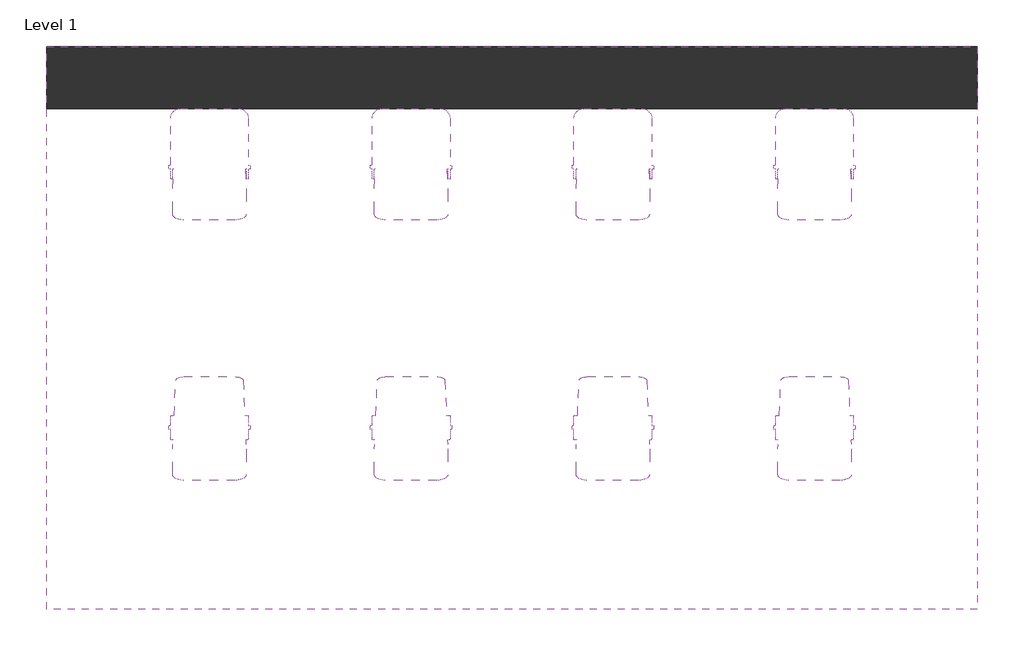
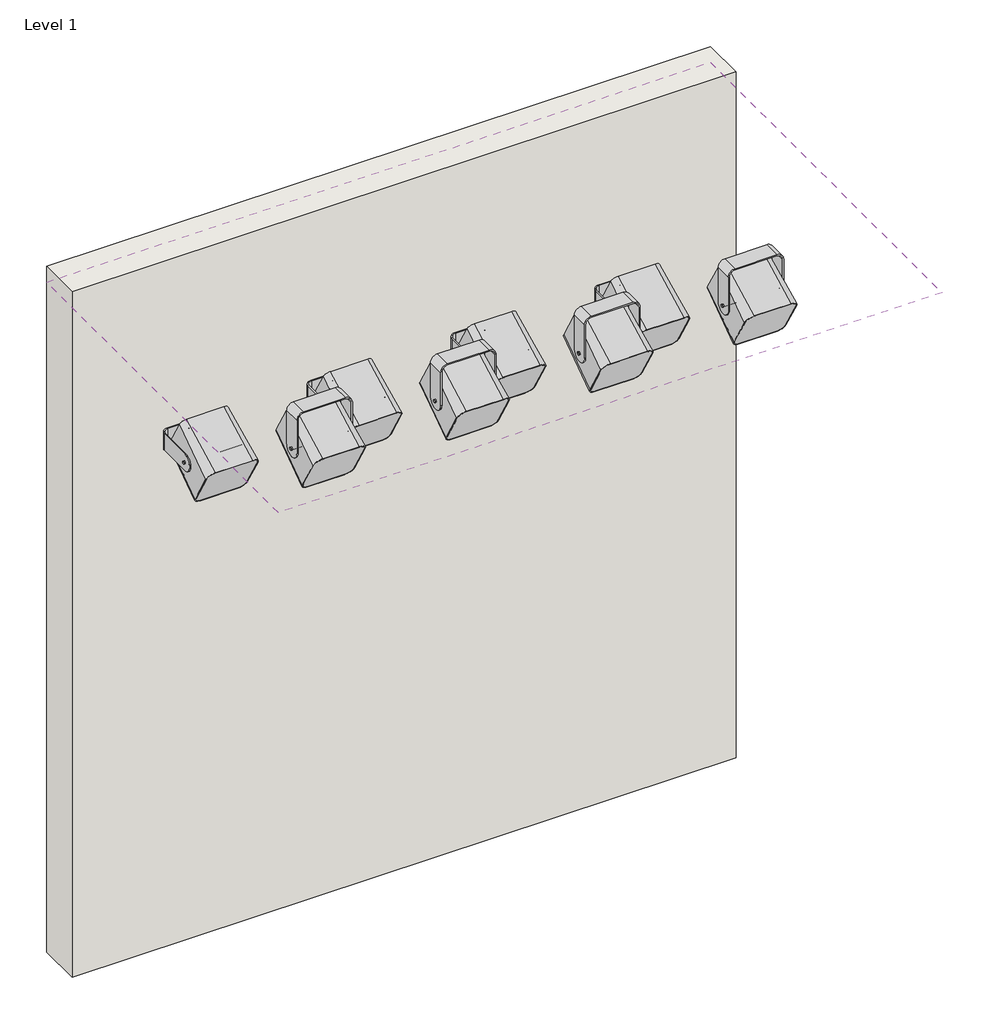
# One storey: 8 proxies, 1 covering, 1 wall.
"""IFC4 building model written with IfcOpenShell, lengths in millimetres."""

from ifc_helpers import new_model, si_unit, frame, origin, origin_with_axes, place, context, project, spatial, polyline, outline, extrude, transform, mapped, element, save
from components import pro_60_130t_plus_en54_pro_60_130t_plus_black_en54_e2d8d6e3, pro_60_130t_plus_en54_pro_60_130t_plus_black_en54_bc86a0cb, pro_60_130t_plus_en54_pro_60_130t_plus_white_en54_0f04868d, pro_60_130t_plus_en54_pro_60_130t_plus_white_en54_f35f9c04

model = new_model("IFC4")

# Units and contexts
model_context = context("Model", 3, world=origin())
ifc_project = project(units=[si_unit("LENGTHUNIT", "METRE", prefix="MILLI")], contexts=[model_context])

# Site, building, storey
site = spatial("IfcSite", under=ifc_project)
building = spatial("IfcBuilding", under=site)
storey = spatial("IfcBuildingStorey", under=building, Name="Level 1", Elevation=0.0)

# Proxies
placement = place(None, origin())
pro_60_130t_plus_en54_pro_60_130t_plus_black_en54_shape = pro_60_130t_plus_en54_pro_60_130t_plus_black_en54_e2d8d6e3(model_context)
element("IfcBuildingElementProxy", 1, Name="PRO 60-130T-plus-EN54 : PRO 60-130T-plus black-EN54", ObjectType="PRO 60-130T-plus-EN54 : PRO 60-130T-plus black-EN54", at=placement, inside=storey, context=model_context, shape_type="MappedRepresentation", body=[
    mapped(pro_60_130t_plus_en54_pro_60_130t_plus_black_en54_shape, transform((2233.1973575, 1963.1766815, 1856.1986884), x_axis=(1.0, 0.0, 0.0), y_axis=(0.0, 0.0, 1.0), z_axis=(0.0, -1.0, 0.0))),
])
element("IfcBuildingElementProxy", 2, Name="PRO 60-130T-plus-EN54 : PRO 60-130T-plus black-EN54", ObjectType="PRO 60-130T-plus-EN54 : PRO 60-130T-plus black-EN54", at=placement, inside=storey, context=model_context, shape_type="MappedRepresentation", body=[
    mapped(pro_60_130t_plus_en54_pro_60_130t_plus_black_en54_shape, transform((2728.5306908, 1963.1766815, 1856.1986884), x_axis=(1.0, 0.0, 0.0), y_axis=(0.0, 0.0, 1.0), z_axis=(0.0, -1.0, 0.0))),
])
element("IfcBuildingElementProxy", 3, Name="PRO 60-130T-plus-EN54 : PRO 60-130T-plus black-EN54", ObjectType="PRO 60-130T-plus-EN54 : PRO 60-130T-plus black-EN54", at=placement, inside=storey, context=model_context, shape_type="MappedRepresentation", body=[
    mapped(pro_60_130t_plus_en54_pro_60_130t_plus_black_en54_shape, transform((3719.1973575, 1963.1766815, 1856.1986884), x_axis=(1.0, 0.0, 0.0), y_axis=(0.0, 0.0, 1.0), z_axis=(0.0, -1.0, 0.0))),
])
pro_60_130t_plus_en54_pro_60_130t_plus_black_en54_2_shape = pro_60_130t_plus_en54_pro_60_130t_plus_black_en54_bc86a0cb(model_context)
element("IfcBuildingElementProxy", 4, Name="PRO 60-130T-plus-EN54 : PRO 60-130T-plus black-EN54", ObjectType="PRO 60-130T-plus-EN54 : PRO 60-130T-plus black-EN54", at=placement, inside=storey, context=model_context, shape_type="MappedRepresentation", body=[
    mapped(pro_60_130t_plus_en54_pro_60_130t_plus_black_en54_2_shape, transform((2233.1973575, 1179.3766815, 2438.4), x_axis=(-1.0, 0.0, 0.0), y_axis=(0.0, 1.0, 0.0), z_axis=(0.0, 0.0, -1.0))),
])
element("IfcBuildingElementProxy", 5, Name="PRO 60-130T-plus-EN54 : PRO 60-130T-plus black-EN54", ObjectType="PRO 60-130T-plus-EN54 : PRO 60-130T-plus black-EN54", at=placement, inside=storey, context=model_context, shape_type="MappedRepresentation", body=[
    mapped(pro_60_130t_plus_en54_pro_60_130t_plus_black_en54_2_shape, transform((2728.5306908, 1179.3766815, 2438.4), x_axis=(-1.0, 0.0, 0.0), y_axis=(0.0, 1.0, 0.0), z_axis=(0.0, 0.0, -1.0))),
])
element("IfcBuildingElementProxy", 6, Name="PRO 60-130T-plus-EN54 : PRO 60-130T-plus black-EN54", ObjectType="PRO 60-130T-plus-EN54 : PRO 60-130T-plus black-EN54", at=placement, inside=storey, context=model_context, shape_type="MappedRepresentation", body=[
    mapped(pro_60_130t_plus_en54_pro_60_130t_plus_black_en54_2_shape, transform((3719.1973575, 1179.3766815, 2438.4), x_axis=(-1.0, 0.0, 0.0), y_axis=(0.0, 1.0, 0.0), z_axis=(0.0, 0.0, -1.0))),
])
pro_60_130t_plus_en54_pro_60_130t_plus_white_en54_shape = pro_60_130t_plus_en54_pro_60_130t_plus_white_en54_0f04868d(model_context)
element("IfcBuildingElementProxy", 7, Name="PRO 60-130T-plus-EN54 : PRO 60-130T-plus white-EN54", ObjectType="PRO 60-130T-plus-EN54 : PRO 60-130T-plus white-EN54", at=placement, inside=storey, context=model_context, shape_type="MappedRepresentation", body=[
    mapped(pro_60_130t_plus_en54_pro_60_130t_plus_white_en54_shape, transform((3223.8640242, 1963.1766815, 1856.1986884), x_axis=(-1.0, 0.0, 0.0), y_axis=(0.0, 0.0, -1.0), z_axis=(0.0, -1.0, 0.0))),
])
pro_60_130t_plus_en54_pro_60_130t_plus_white_en54_2_shape = pro_60_130t_plus_en54_pro_60_130t_plus_white_en54_f35f9c04(model_context)
element("IfcBuildingElementProxy", 8, Name="PRO 60-130T-plus-EN54 : PRO 60-130T-plus white-EN54", ObjectType="PRO 60-130T-plus-EN54 : PRO 60-130T-plus white-EN54", at=placement, inside=storey, context=model_context, shape_type="MappedRepresentation", body=[
    mapped(pro_60_130t_plus_en54_pro_60_130t_plus_white_en54_2_shape, transform((3223.8640242, 1179.3766815, 2438.4), x_axis=(1.0, 0.0, 0.0), y_axis=(0.0, -1.0, 0.0), z_axis=(0.0, 0.0, -1.0))),
])

# Covering
element("IfcCovering", 9, ObjectType="2' x 4' ACT System", at=placement, inside=storey, context=model_context, shape_type="SweptSolid", body=[
    extrude(outline(polyline([(4119.1973575, 2115.5766815), (4119.1973575, 732.2741036), (1833.1973575, 732.2741036), (1833.1973575, 2115.5766815), (4119.1973575, 2115.5766815)])), frame((0.0, 0.0, 2438.4), z_axis=(0.0, 0.0, 1.0), x_axis=(1.0, 0.0, 0.0)), (0.0, 0.0, 1.0), 57.15),
])

# Wall
element("IfcWall", 10, ObjectType="Exterior - 6\" Generic", at=placement, inside=storey, context=model_context, shape_type="SweptSolid", body=[
    extrude(outline(polyline([(4119.1973575, 1963.1766815), (1833.1973575, 1963.1766815), (1833.1973575, 2115.5766815), (4119.1973575, 2115.5766815), (4119.1973575, 1963.1766815)])), origin_with_axes(), (0.0, 0.0, 1.0), 2495.55),
])

save(model, "model.ifc")
